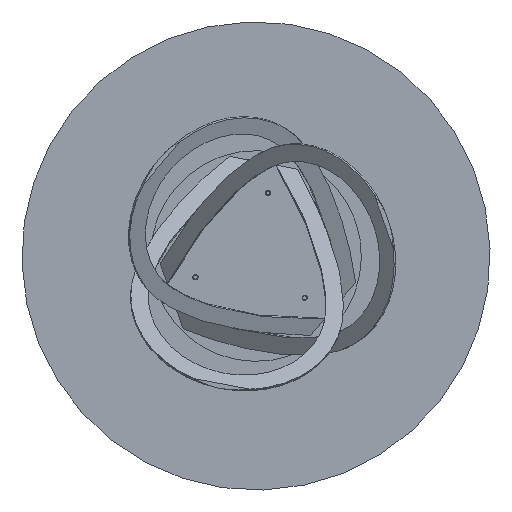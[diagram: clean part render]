
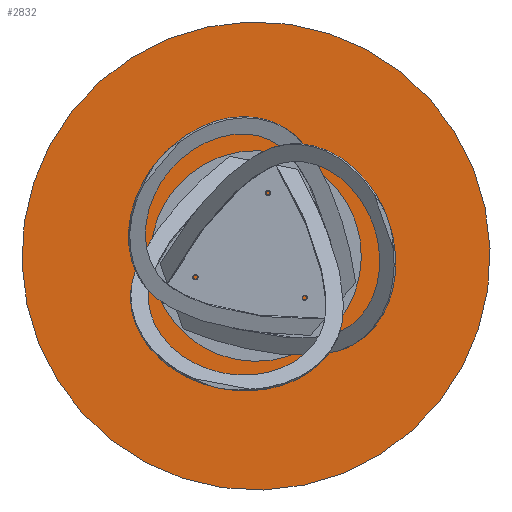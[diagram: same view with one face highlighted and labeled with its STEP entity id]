
A CAD part, front view. The second image highlights one B-rep face of the part: STEP entity #2832.
In plain terms, the highlighted planar face has unit normal (0, -1, 0).
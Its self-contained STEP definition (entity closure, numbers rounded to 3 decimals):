
#137 = PLANE ( 'NONE',  #2845 ) ;
#550 = ORIENTED_EDGE ( 'NONE', *, *, #917, .T. ) ;
#588 = DIRECTION ( 'NONE',  ( 0., 0., -1. ) ) ;
#679 = ORIENTED_EDGE ( 'NONE', *, *, #1696, .T. ) ;
#800 = DIRECTION ( 'NONE',  ( 0., -1., 0. ) ) ;
#826 = AXIS2_PLACEMENT_3D ( 'NONE', #1028, #1957, #588 ) ;
#917 = EDGE_CURVE ( 'NONE', #1213, #1499, #2547, .T. ) ;
#1028 = CARTESIAN_POINT ( 'NONE',  ( 0., 0., 0. ) ) ;
#1173 = EDGE_LOOP ( 'NONE', ( #679, #550 ) ) ;
#1190 = CARTESIAN_POINT ( 'NONE',  ( 0., 0., -400. ) ) ;
#1213 = VERTEX_POINT ( 'NONE', #2828 ) ;
#1269 = CARTESIAN_POINT ( 'NONE',  ( 0., 0., 0. ) ) ;
#1499 = VERTEX_POINT ( 'NONE', #1190 ) ;
#1696 = EDGE_CURVE ( 'NONE', #1499, #1213, #1938, .T. ) ;
#1753 = FACE_OUTER_BOUND ( 'NONE', #1173, .T. ) ;
#1777 = DIRECTION ( 'NONE',  ( 0., 0., -1. ) ) ;
#1938 = CIRCLE ( 'NONE', #826, 400. ) ;
#1942 = DIRECTION ( 'NONE',  ( 0., 0., -1. ) ) ;
#1957 = DIRECTION ( 'NONE',  ( 0., -1., 0. ) ) ;
#2041 = DIRECTION ( 'NONE',  ( 0., -1., 0. ) ) ;
#2087 = AXIS2_PLACEMENT_3D ( 'NONE', #1269, #2041, #1777 ) ;
#2547 = CIRCLE ( 'NONE', #2087, 400. ) ;
#2828 = CARTESIAN_POINT ( 'NONE',  ( 0., 0., 400. ) ) ;
#2832 = ADVANCED_FACE ( 'NONE', ( #1753 ), #137, .T. ) ;
#2845 = AXIS2_PLACEMENT_3D ( 'NONE', #2912, #800, #1942 ) ;
#2912 = CARTESIAN_POINT ( 'NONE',  ( 0., 0., 0. ) ) ;
